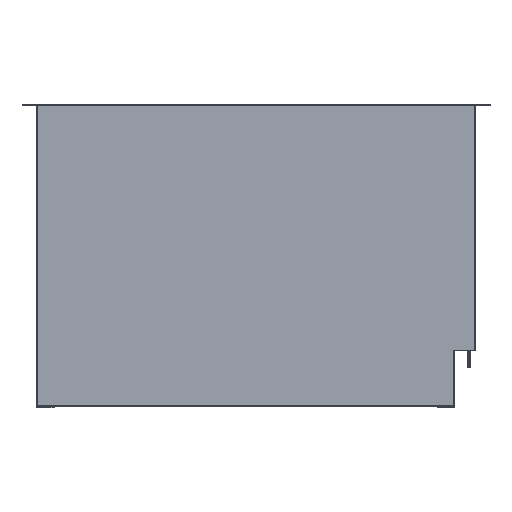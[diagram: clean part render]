
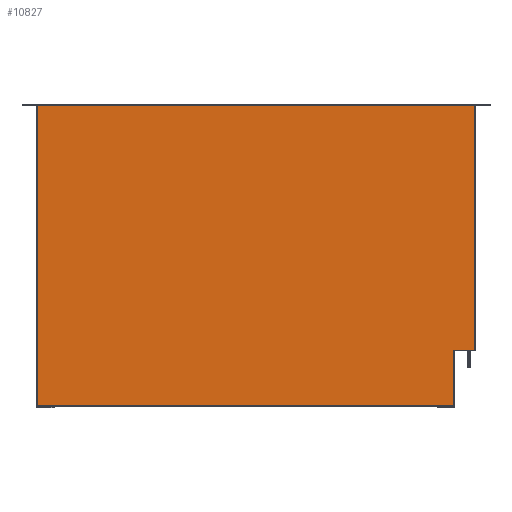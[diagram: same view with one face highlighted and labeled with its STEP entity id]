
A CAD part, front view. The second image highlights one B-rep face of the part: STEP entity #10827.
In plain terms, the highlighted planar face has unit normal (0, -1, -0.013) as drawn and (0, 0, -1) by its records, which use the part's own axes.
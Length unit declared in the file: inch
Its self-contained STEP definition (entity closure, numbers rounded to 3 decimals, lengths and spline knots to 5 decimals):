
#222 = CARTESIAN_POINT ( 'NONE',  ( 11.99935, 0.76816, -0.06 ) ) ;
#316 = VECTOR ( 'NONE', #22285, 39.37008 ) ;
#328 = CARTESIAN_POINT ( 'NONE',  ( 40.73265, 2.80531, -0.06 ) ) ;
#426 = DIRECTION ( 'NONE',  ( 1., 0., 0. ) ) ;
#828 = CARTESIAN_POINT ( 'NONE',  ( 40.73605, 2.80531, -0.06 ) ) ;
#927 = FACE_OUTER_BOUND ( 'NONE', #13181, .T. ) ;
#987 = ORIENTED_EDGE ( 'NONE', *, *, #4593, .F. ) ;
#1939 = ORIENTED_EDGE ( 'NONE', *, *, #17177, .F. ) ;
#1960 = CARTESIAN_POINT ( 'NONE',  ( 42.48568, 42.666, -0.06 ) ) ;
#2237 = EDGE_CURVE ( 'NONE', #17837, #17960, #18039, .T. ) ;
#2504 = VERTEX_POINT ( 'NONE', #11344 ) ;
#2530 = CARTESIAN_POINT ( 'NONE',  ( 11.99935, -0.98147, -0.06 ) ) ;
#2588 = LINE ( 'NONE', #14158, #22174 ) ;
#2657 = CARTESIAN_POINT ( 'NONE',  ( 40.73265, 2.76816, -0.06 ) ) ;
#2793 = CARTESIAN_POINT ( 'NONE',  ( 40.79265, 42.62886, -0.06 ) ) ;
#3182 = CARTESIAN_POINT ( 'NONE',  ( 40.73605, 42.62886, -0.06 ) ) ;
#3366 = VECTOR ( 'NONE', #19057, 39.37008 ) ;
#3426 = LINE ( 'NONE', #2793, #12327 ) ;
#3646 = VERTEX_POINT ( 'NONE', #18599 ) ;
#3818 = DIRECTION ( 'NONE',  ( -1., 0., 0. ) ) ;
#4028 = CARTESIAN_POINT ( 'NONE',  ( 42.48568, 42.75386, -0.06 ) ) ;
#4232 = ORIENTED_EDGE ( 'NONE', *, *, #2237, .F. ) ;
#4429 = DIRECTION ( 'NONE',  ( 0., -1., 0. ) ) ;
#4593 = EDGE_CURVE ( 'NONE', #17960, #22739, #3426, .T. ) ;
#4640 = ORIENTED_EDGE ( 'NONE', *, *, #17745, .T. ) ;
#4780 = LINE ( 'NONE', #10917, #316 ) ;
#4920 = CARTESIAN_POINT ( 'NONE',  ( 35.41765, 2.77156, -0.06 ) ) ;
#5273 = CARTESIAN_POINT ( 'NONE',  ( 35.54265, 2.77156, -0.06 ) ) ;
#5530 = VERTEX_POINT ( 'NONE', #6048 ) ;
#5698 = EDGE_CURVE ( 'NONE', #13719, #5530, #18808, .T. ) ;
#5844 = EDGE_CURVE ( 'NONE', #22794, #23302, #6916, .T. ) ;
#6048 = CARTESIAN_POINT ( 'NONE',  ( 11.93096, 0.77156, -0.06 ) ) ;
#6257 = LINE ( 'NONE', #13755, #20805 ) ;
#6305 = VECTOR ( 'NONE', #16285, 39.37008 ) ;
#6322 = VECTOR ( 'NONE', #3818, 39.37008 ) ;
#6569 = LINE ( 'NONE', #328, #10417 ) ;
#6683 = DIRECTION ( 'NONE',  ( 1., 0., 0. ) ) ;
#6916 = LINE ( 'NONE', #15181, #6322 ) ;
#7015 = DIRECTION ( 'NONE',  ( 0., -1., 0. ) ) ;
#7581 = CARTESIAN_POINT ( 'NONE',  ( 11.99935, 42.666, -0.06 ) ) ;
#7830 = DIRECTION ( 'NONE',  ( 1., 0., 0. ) ) ;
#7886 = EDGE_CURVE ( 'NONE', #12561, #22739, #16487, .T. ) ;
#8912 = CARTESIAN_POINT ( 'NONE',  ( 40.73265, 42.78261, -0.06 ) ) ;
#9397 = EDGE_CURVE ( 'NONE', #2504, #23302, #19683, .T. ) ;
#9637 = ORIENTED_EDGE ( 'NONE', *, *, #7886, .T. ) ;
#9662 = LINE ( 'NONE', #11817, #19756 ) ;
#9696 = VERTEX_POINT ( 'NONE', #15601 ) ;
#9828 = VERTEX_POINT ( 'NONE', #19733 ) ;
#10234 = EDGE_CURVE ( 'NONE', #12561, #14060, #23539, .T. ) ;
#10365 = ORIENTED_EDGE ( 'NONE', *, *, #13894, .F. ) ;
#10417 = VECTOR ( 'NONE', #13638, 39.37008 ) ;
#10425 = DIRECTION ( 'NONE',  ( -1., 0., 0. ) ) ;
#10429 = CARTESIAN_POINT ( 'NONE',  ( 40.73605, 42.75386, -0.06 ) ) ;
#10606 = EDGE_CURVE ( 'NONE', #16687, #2504, #21454, .T. ) ;
#10648 = CARTESIAN_POINT ( 'NONE',  ( 42.48568, 0.76816, -0.06 ) ) ;
#10827 = ADVANCED_FACE ( 'NONE', ( #927 ), #17310, .F. ) ;
#10917 = CARTESIAN_POINT ( 'NONE',  ( 42.48568, 2.76816, -0.06 ) ) ;
#11344 = CARTESIAN_POINT ( 'NONE',  ( 35.41765, 0.76816, -0.06 ) ) ;
#11453 = VECTOR ( 'NONE', #7015, 39.37008 ) ;
#11806 = CARTESIAN_POINT ( 'NONE',  ( 11.93096, 42.75386, -0.06 ) ) ;
#11817 = CARTESIAN_POINT ( 'NONE',  ( 11.99935, 42.66261, -0.06 ) ) ;
#12327 = VECTOR ( 'NONE', #19779, 39.37008 ) ;
#12561 = VERTEX_POINT ( 'NONE', #22008 ) ;
#12734 = CARTESIAN_POINT ( 'NONE',  ( 11.99935, 42.72261, -0.06 ) ) ;
#13181 = EDGE_LOOP ( 'NONE', ( #20646, #14407, #13337, #18097, #23207, #10365, #16599, #9637, #987, #4232, #17203, #4640, #20076, #1939, #21796, #19853 ) ) ;
#13337 = ORIENTED_EDGE ( 'NONE', *, *, #5698, .T. ) ;
#13404 = VERTEX_POINT ( 'NONE', #17251 ) ;
#13638 = DIRECTION ( 'NONE',  ( 0., -1., 0. ) ) ;
#13719 = VERTEX_POINT ( 'NONE', #21699 ) ;
#13755 = CARTESIAN_POINT ( 'NONE',  ( 35.54265, 2.71156, -0.06 ) ) ;
#13770 = VECTOR ( 'NONE', #10425, 39.37008 ) ;
#13894 = EDGE_CURVE ( 'NONE', #14060, #3646, #15030, .T. ) ;
#14060 = VERTEX_POINT ( 'NONE', #7581 ) ;
#14158 = CARTESIAN_POINT ( 'NONE',  ( 40.79265, 2.80531, -0.06 ) ) ;
#14164 = LINE ( 'NONE', #11806, #18628 ) ;
#14171 = EDGE_CURVE ( 'NONE', #13404, #3646, #9662, .T. ) ;
#14374 = CARTESIAN_POINT ( 'NONE',  ( 35.41765, 0.71156, -0.06 ) ) ;
#14407 = ORIENTED_EDGE ( 'NONE', *, *, #23113, .F. ) ;
#14864 = VERTEX_POINT ( 'NONE', #2657 ) ;
#15030 = LINE ( 'NONE', #12734, #24534 ) ;
#15181 = CARTESIAN_POINT ( 'NONE',  ( 35.54265, 2.77156, -0.06 ) ) ;
#15601 = CARTESIAN_POINT ( 'NONE',  ( 40.73265, 2.80531, -0.06 ) ) ;
#15650 = DIRECTION ( 'NONE',  ( 0., -1., 0. ) ) ;
#16285 = DIRECTION ( 'NONE',  ( 1., 0., 0. ) ) ;
#16487 = LINE ( 'NONE', #8912, #11453 ) ;
#16599 = ORIENTED_EDGE ( 'NONE', *, *, #10234, .F. ) ;
#16687 = VERTEX_POINT ( 'NONE', #222 ) ;
#16974 = EDGE_CURVE ( 'NONE', #14864, #9828, #4780, .T. ) ;
#17177 = EDGE_CURVE ( 'NONE', #22794, #9828, #6257, .T. ) ;
#17203 = ORIENTED_EDGE ( 'NONE', *, *, #22624, .F. ) ;
#17251 = CARTESIAN_POINT ( 'NONE',  ( 11.93096, 42.66261, -0.06 ) ) ;
#17310 = PLANE ( 'NONE',  #20918 ) ;
#17745 = EDGE_CURVE ( 'NONE', #9696, #14864, #6569, .T. ) ;
#17837 = VERTEX_POINT ( 'NONE', #828 ) ;
#17960 = VERTEX_POINT ( 'NONE', #3182 ) ;
#17996 = CARTESIAN_POINT ( 'NONE',  ( 11.99935, 0.77156, -0.06 ) ) ;
#18039 = LINE ( 'NONE', #10429, #22480 ) ;
#18097 = ORIENTED_EDGE ( 'NONE', *, *, #21627, .F. ) ;
#18599 = CARTESIAN_POINT ( 'NONE',  ( 11.99935, 42.66261, -0.06 ) ) ;
#18628 = VECTOR ( 'NONE', #23154, 39.37008 ) ;
#18808 = LINE ( 'NONE', #17996, #13770 ) ;
#19057 = DIRECTION ( 'NONE',  ( -1., 0., 0. ) ) ;
#19210 = DIRECTION ( 'NONE',  ( 0., 0., 1. ) ) ;
#19683 = LINE ( 'NONE', #14374, #24132 ) ;
#19733 = CARTESIAN_POINT ( 'NONE',  ( 35.54265, 2.76816, -0.06 ) ) ;
#19756 = VECTOR ( 'NONE', #426, 39.37008 ) ;
#19779 = DIRECTION ( 'NONE',  ( -1., 0., 0. ) ) ;
#19853 = ORIENTED_EDGE ( 'NONE', *, *, #9397, .F. ) ;
#19897 = DIRECTION ( 'NONE',  ( 0., 1., 0. ) ) ;
#20002 = DIRECTION ( 'NONE',  ( 0., 1., 0. ) ) ;
#20076 = ORIENTED_EDGE ( 'NONE', *, *, #16974, .T. ) ;
#20281 = DIRECTION ( 'NONE',  ( 0., -1., 0. ) ) ;
#20646 = ORIENTED_EDGE ( 'NONE', *, *, #10606, .F. ) ;
#20805 = VECTOR ( 'NONE', #15650, 39.37008 ) ;
#20918 = AXIS2_PLACEMENT_3D ( 'NONE', #4028, #19210, #7830 ) ;
#21454 = LINE ( 'NONE', #10648, #6305 ) ;
#21627 = EDGE_CURVE ( 'NONE', #13404, #5530, #14164, .T. ) ;
#21699 = CARTESIAN_POINT ( 'NONE',  ( 11.99935, 0.77156, -0.06 ) ) ;
#21796 = ORIENTED_EDGE ( 'NONE', *, *, #5844, .T. ) ;
#22008 = CARTESIAN_POINT ( 'NONE',  ( 40.73265, 42.666, -0.06 ) ) ;
#22174 = VECTOR ( 'NONE', #6683, 39.37008 ) ;
#22202 = CARTESIAN_POINT ( 'NONE',  ( 40.73265, 42.62886, -0.06 ) ) ;
#22285 = DIRECTION ( 'NONE',  ( -1., 0., 0. ) ) ;
#22480 = VECTOR ( 'NONE', #19897, 39.37008 ) ;
#22624 = EDGE_CURVE ( 'NONE', #9696, #17837, #2588, .T. ) ;
#22739 = VERTEX_POINT ( 'NONE', #22202 ) ;
#22744 = LINE ( 'NONE', #2530, #23341 ) ;
#22794 = VERTEX_POINT ( 'NONE', #5273 ) ;
#23113 = EDGE_CURVE ( 'NONE', #13719, #16687, #22744, .T. ) ;
#23154 = DIRECTION ( 'NONE',  ( 0., -1., 0. ) ) ;
#23207 = ORIENTED_EDGE ( 'NONE', *, *, #14171, .T. ) ;
#23302 = VERTEX_POINT ( 'NONE', #4920 ) ;
#23341 = VECTOR ( 'NONE', #4429, 39.37008 ) ;
#23539 = LINE ( 'NONE', #1960, #3366 ) ;
#24132 = VECTOR ( 'NONE', #20002, 39.37008 ) ;
#24534 = VECTOR ( 'NONE', #20281, 39.37008 ) ;
